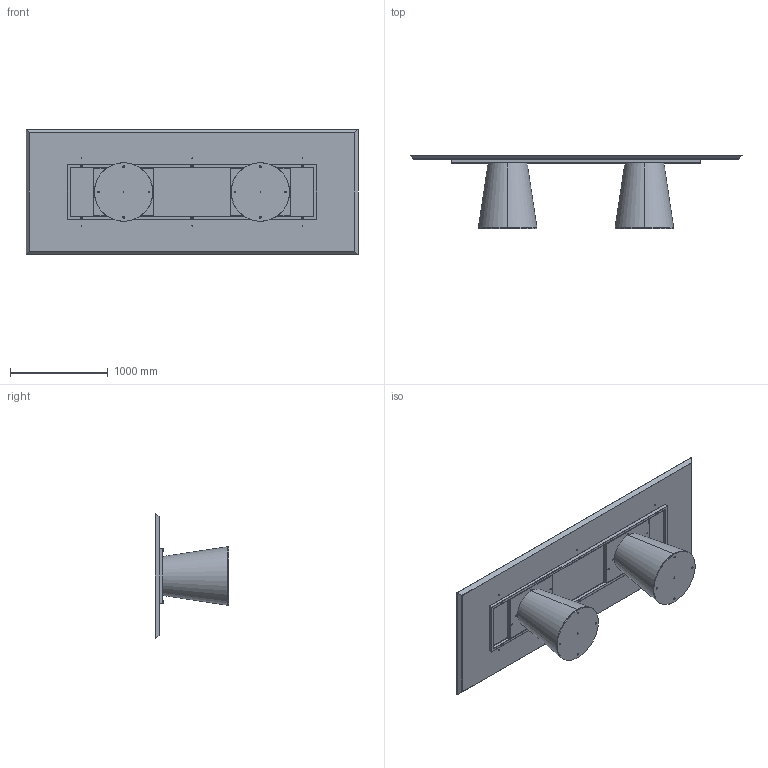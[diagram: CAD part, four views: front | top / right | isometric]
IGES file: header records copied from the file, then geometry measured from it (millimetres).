
Start section: SolidWorks IGES file using analytic representation for surfaces
Global section: file name: Y:\eforma\TECNICO\SOLIDWORKS\E-FORMA\1-TAVOLI\TEO\08 modelli 3D web\TO26W_Teo_340x128_Wood Rectangular.IGS; native system: SolidWorks 2022; preprocessor: SolidWorks 2022; author: eforma.tech; date: 240802.113642; units: millimetre
Bounding box: 3400 x 751.19 x 1280 mm (x, y, z)
Volume: 220209988.2 mm3; surface area: 18504817.9 mm2
Topology: 28 solids, 28 shells, 1104 faces, 2532 edges, 1456 vertices
Faces by surface type: revolution 610, plane 494
